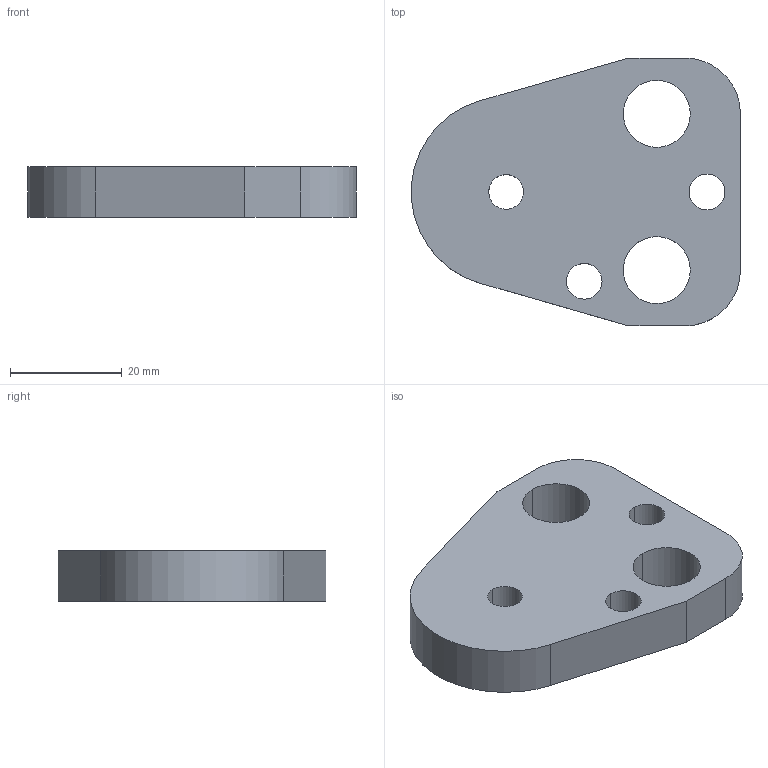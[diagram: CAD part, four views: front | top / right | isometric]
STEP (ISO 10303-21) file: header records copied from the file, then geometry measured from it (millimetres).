
FILE_DESCRIPTION(/* description */ (''),/* implementation_level */ '2;1');
FILE_NAME(/* name */ '3d_bpc20-9_03439_r00.stp',/* time_stamp */ '2011-01-10T14:17:10+09:00',/* author */ ('MISUMI'),/* organization */ (''),/* preprocessor_version */ 'ST-DEVELOPER v11',/* originating_system */ 'UGS - NX 5.0',/* authorisation */ '');
FILE_SCHEMA (('CONFIG_CONTROL_DESIGN'));
Length unit declared in the file: millimetre
Products named in the file (1): 3d_bpc20-9_03439_r00
Bounding box: 58.94 x 48 x 9 mm (x, y, z)
Volume: 17726.2 mm3; surface area: 6764.7 mm2
Topology: 1 solids, 1 shells, 20 faces, 54 edges, 36 vertices
Faces by surface type: cylinder 13, plane 7
Entity records: 750 total; most frequent: DIRECTION 122, CARTESIAN_POINT 111, ORIENTED_EDGE 108, EDGE_CURVE 54, AXIS2_PLACEMENT_3D 47, VERTEX_POINT 36, EDGE_LOOP 30, LINE 28
